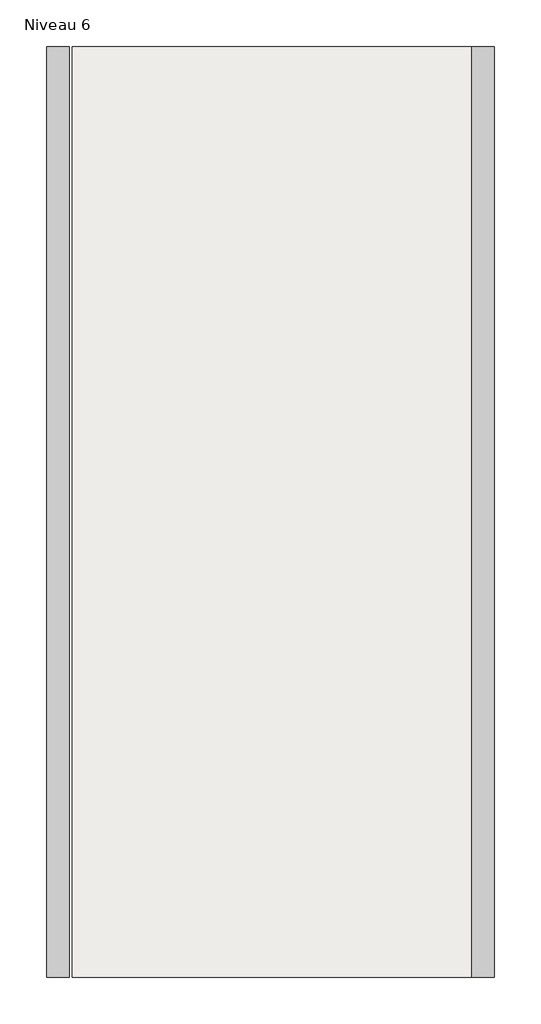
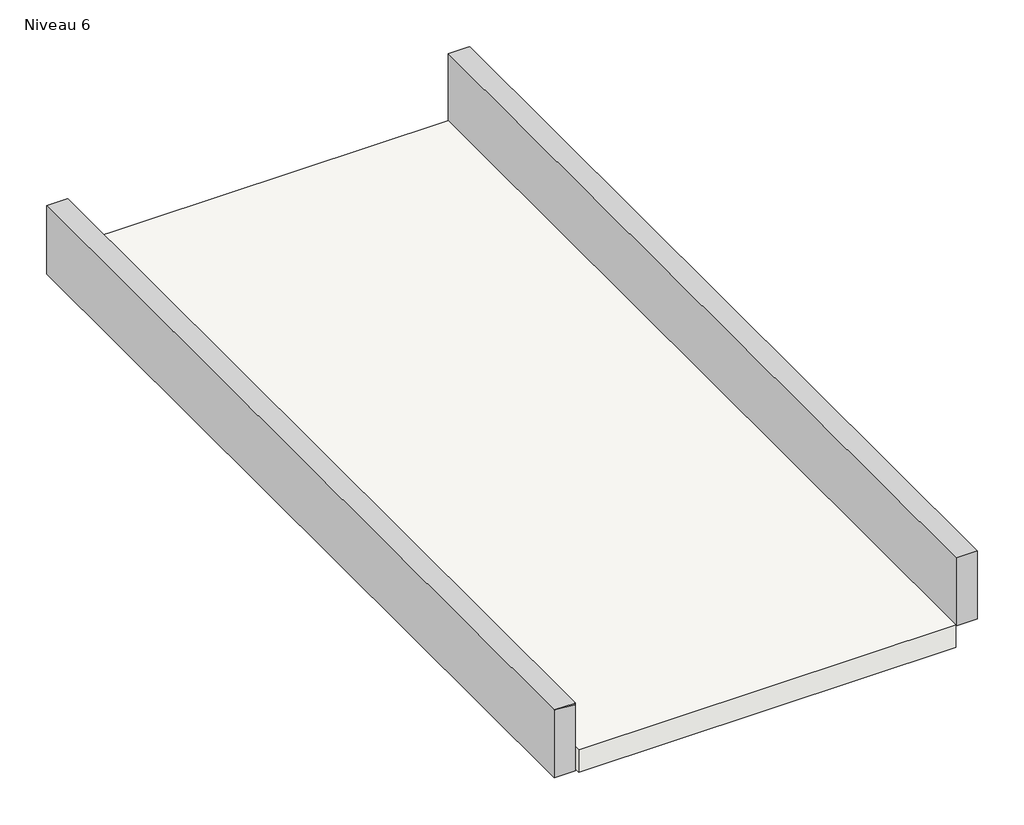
# One storey: 2 beams, 1 slab.
"""IFC4 building model written with IfcOpenShell, lengths in millimetres."""

from ifc_helpers import new_model, si_unit, origin, place, context, project, spatial, faceted_brep, element, save

model = new_model("IFC4")

# Units and contexts
model_context = context("Model", 3, world=origin())
ifc_project = project(units=[si_unit("LENGTHUNIT", "METRE", prefix="MILLI")], contexts=[model_context])

# Site, building, storey
site = spatial("IfcSite", under=ifc_project)
building = spatial("IfcBuilding", under=site)
storey = spatial("IfcBuildingStorey", under=building, Name="Niveau 6", Elevation=6630.0)

# Beams
placement = place(None, origin())
element("IfcBeam", 1, ObjectType="Poutre rectangulaire - Béton : 180 x 610", at=placement, inside=storey, context=model_context, shape_type="Brep", body=[
    faceted_brep([(-4858.7495049, -4733.5814156, 6630.0), (-4685.3436617, -4733.5814156, 6615.3599449), (-4685.3436617, -4733.5814156, 6630.0), (-4858.7495049, -4730.8814156, 6020.0), (-4858.7495049, -4730.8814156, 6630.0), (-4858.7495049, 2709.1185844, 6630.0), (-4858.7495049, 2709.1185844, 6020.0), (-4678.7495049, -4730.8814156, 6020.0), (-4678.7495049, 2709.1185844, 6020.0), (-4678.7495049, 2709.1185844, 6630.0), (-4678.7495049, -4730.8814156, 6630.0), (-4685.3436617, -4730.8814156, 6630.0), (-4685.3436617, -4730.8814156, 6615.3599449)], [[[0, 1, 2]], [[3, 4, 5, 6]], [[7, 3, 6, 8]], [[8, 9, 10, 7]], [[4, 0, 2, 11, 10, 9, 5]], [[12, 4, 3, 7, 10, 11]], [[4, 12, 1, 0]], [[8, 6, 5, 9]], [[12, 11, 2, 1]]]),
])
element("IfcBeam", 2, ObjectType="Poutre rectangulaire - Béton : 180 x 610", at=placement, inside=storey, context=model_context, shape_type="Brep", body=[
    faceted_brep([(-1458.7495049, -4733.5814156, 6800.0), (-1458.7495049, -4733.5814156, 6190.0), (-1278.7495049, -4733.5814156, 6190.0), (-1278.7495049, -4733.5814156, 6800.0), (-1458.7495049, 2711.8185844, 6800.0), (-1293.9199772, 2711.8185844, 6800.0), (-1453.958769, 2711.8185844, 6787.7386643), (-1453.958769, 2711.8185844, 6630.0), (-1458.7495049, 2711.8185844, 6630.0), (-1458.7495049, 2709.1185844, 6630.0), (-1458.7495049, 2709.1185844, 6200.0), (-1458.7495049, 2709.1185844, 6190.0), (-1278.7495049, 2709.1185844, 6190.0), (-1278.7495049, 2709.1185844, 6800.0), (-1293.9199772, 2709.1185844, 6800.0), (-1453.958769, 2709.1185844, 6630.0), (-1453.958769, 2709.1185844, 6787.7386643)], [[[0, 1, 2, 3]], [[4, 5, 6, 7, 8]], [[1, 0, 4, 8, 9, 10, 11]], [[2, 1, 11, 12]], [[3, 2, 12, 13]], [[0, 3, 13, 14, 5, 4]], [[11, 10, 9, 15, 16, 14, 13, 12]], [[6, 16, 15, 7]], [[15, 9, 8, 7]], [[14, 16, 6, 5]]]),
])

# Slab
element("IfcSlab", 3, ObjectType="Dalle en béton - 200", at=placement, inside=storey, context=model_context, shape_type="Brep", body=[
    faceted_brep([(-1458.7495049, 2709.1185844, 6000.0), (-1458.7495049, -4730.8814156, 6000.0), (-4652.668752, -4730.8814156, 6000.0), (-4652.668752, 2709.1185844, 6000.0), (-1458.7495049, 2709.1185844, 6200.0), (-4652.668752, 2709.1185844, 6200.0), (-4652.668752, -4730.8814156, 6200.0), (-1458.7495049, -4730.8814156, 6200.0), (-1458.7495049, 2709.1185844, 6190.0)], [[[0, 1, 2, 3]], [[4, 5, 6, 7]], [[1, 0, 8, 4, 7]], [[2, 1, 7, 6]], [[3, 2, 6, 5]], [[0, 3, 5, 4, 8]]]),
])

save(model, "model.ifc")
